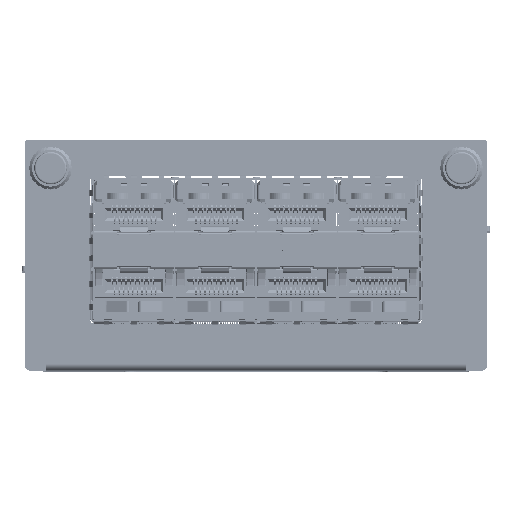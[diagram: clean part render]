
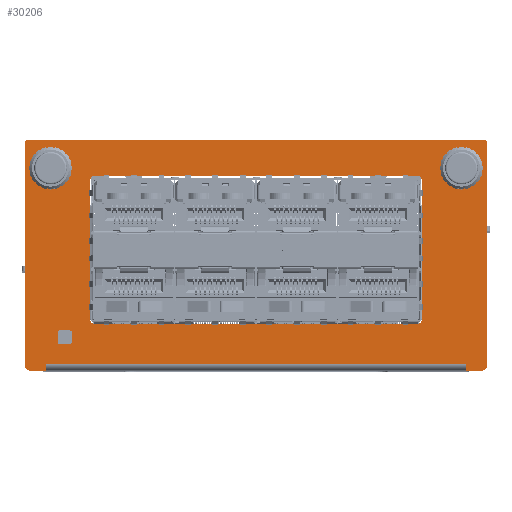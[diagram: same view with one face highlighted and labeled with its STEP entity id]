
A CAD part, top view. The second image highlights one B-rep face of the part: STEP entity #30206.
In plain terms, the highlighted planar face has unit normal (0, 0, -1).
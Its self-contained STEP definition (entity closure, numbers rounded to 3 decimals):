
#24554=DIRECTION('',(1.,0.,0.));
#24555=VECTOR('',#24554,73.6);
#24556=CARTESIAN_POINT('',(-116.3,2.6,384.8));
#24557=LINE('',#24556,#24555);
#25815=CARTESIAN_POINT('',(-40.,2.4,384.8));
#25816=DIRECTION('',(0.,0.,1.));
#25817=DIRECTION('',(0.,-1.,0.));
#25818=AXIS2_PLACEMENT_3D('',#25815,#25816,#25817);
#25823=CARTESIAN_POINT('',(-39.5,41.4,384.8));
#25824=DIRECTION('',(0.,0.,1.));
#25825=DIRECTION('',(1.,0.,0.));
#25826=AXIS2_PLACEMENT_3D('',#25823,#25824,#25825);
#25831=CARTESIAN_POINT('',(-119.5,41.4,384.8));
#25832=DIRECTION('',(0.,0.,1.));
#25833=DIRECTION('',(0.,1.,0.));
#25834=AXIS2_PLACEMENT_3D('',#25831,#25832,#25833);
#25839=CARTESIAN_POINT('',(-119.,2.4,384.8));
#25840=DIRECTION('',(0.,0.,1.));
#25841=DIRECTION('',(-1.,0.,0.));
#25842=AXIS2_PLACEMENT_3D('',#25839,#25840,#25841);
#25847=CARTESIAN_POINT('',(-115.5,36.9,384.8));
#25848=DIRECTION('',(0.,0.,-1.));
#25849=DIRECTION('',(1.,0.,0.));
#25850=AXIS2_PLACEMENT_3D('',#25847,#25848,#25849);
#25855=CARTESIAN_POINT('',(-115.5,36.9,384.8));
#25856=DIRECTION('',(0.,0.,-1.));
#25857=DIRECTION('',(-1.,0.,0.));
#25858=AXIS2_PLACEMENT_3D('',#25855,#25856,#25857);
#25863=CARTESIAN_POINT('',(-43.5,36.9,384.8));
#25864=DIRECTION('',(0.,0.,-1.));
#25865=DIRECTION('',(1.,0.,0.));
#25866=AXIS2_PLACEMENT_3D('',#25863,#25864,#25865);
#25871=CARTESIAN_POINT('',(-43.5,36.9,384.8));
#25872=DIRECTION('',(0.,0.,-1.));
#25873=DIRECTION('',(-1.,0.,0.));
#25874=AXIS2_PLACEMENT_3D('',#25871,#25872,#25873);
#25879=DIRECTION('',(0.,-1.,0.));
#25880=VECTOR('',#25879,24.1);
#25881=CARTESIAN_POINT('',(-50.375,34.6,384.8));
#25882=LINE('',#25881,#25880);
#25886=CARTESIAN_POINT('',(-51.28,10.5,384.8));
#25887=DIRECTION('',(0.,0.,-1.));
#25888=DIRECTION('',(1.,0.,0.));
#25889=AXIS2_PLACEMENT_3D('',#25886,#25887,#25888);
#25894=CARTESIAN_POINT('',(-107.72,10.5,384.8));
#25895=DIRECTION('',(0.,0.,-1.));
#25896=DIRECTION('',(0.105,-0.994,0.));
#25897=AXIS2_PLACEMENT_3D('',#25894,#25895,#25896);
#25902=CARTESIAN_POINT('',(-107.625,34.6,384.8));
#25903=DIRECTION('',(0.,0.,-1.));
#25904=DIRECTION('',(-1.,0.,0.));
#25905=AXIS2_PLACEMENT_3D('',#25902,#25903,#25904);
#25910=CARTESIAN_POINT('',(-51.375,34.6,384.8));
#25911=DIRECTION('',(0.,0.,-1.));
#25912=DIRECTION('',(0.,1.,0.));
#25913=AXIS2_PLACEMENT_3D('',#25910,#25911,#25912);
#25925=DIRECTION('',(0.,-1.,0.));
#25926=VECTOR('',#25925,39.);
#25927=CARTESIAN_POINT('',(-39.,41.4,384.8));
#25928=LINE('',#25927,#25926);
#25953=DIRECTION('',(1.,0.,0.));
#25954=VECTOR('',#25953,80.);
#25955=CARTESIAN_POINT('',(-119.5,41.9,384.8));
#25956=LINE('',#25955,#25954);
#25974=DIRECTION('',(0.,1.,0.));
#25975=VECTOR('',#25974,39.);
#25976=CARTESIAN_POINT('',(-120.,2.4,384.8));
#25977=LINE('',#25976,#25975);
#26009=DIRECTION('',(-1.,0.,0.));
#26010=VECTOR('',#26009,2.7);
#26011=CARTESIAN_POINT('',(-116.3,1.4,384.8));
#26012=LINE('',#26011,#26010);
#26037=DIRECTION('',(0.,1.,0.));
#26038=VECTOR('',#26037,1.2);
#26039=CARTESIAN_POINT('',(-116.3,1.4,384.8));
#26040=LINE('',#26039,#26038);
#26051=DIRECTION('',(0.,-1.,0.));
#26052=VECTOR('',#26051,1.2);
#26053=CARTESIAN_POINT('',(-42.7,2.6,384.8));
#26054=LINE('',#26053,#26052);
#26072=DIRECTION('',(1.,0.,0.));
#26073=VECTOR('',#26072,2.7);
#26074=CARTESIAN_POINT('',(-42.7,1.4,384.8));
#26075=LINE('',#26074,#26073);
#26174=DIRECTION('',(1.,0.,0.));
#26175=VECTOR('',#26174,2.03);
#26176=CARTESIAN_POINT('',(-114.015,8.29,384.8));
#26177=LINE('',#26176,#26175);
#26188=DIRECTION('',(0.,1.,0.));
#26189=VECTOR('',#26188,2.03);
#26190=CARTESIAN_POINT('',(-114.015,6.26,384.8));
#26191=LINE('',#26190,#26189);
#26216=DIRECTION('',(-1.,0.,0.));
#26217=VECTOR('',#26216,2.03);
#26218=CARTESIAN_POINT('',(-111.985,6.26,384.8));
#26219=LINE('',#26218,#26217);
#26237=DIRECTION('',(0.,-1.,0.));
#26238=VECTOR('',#26237,2.03);
#26239=CARTESIAN_POINT('',(-111.985,8.29,384.8));
#26240=LINE('',#26239,#26238);
#26279=DIRECTION('',(-1.,0.,0.));
#26280=VECTOR('',#26279,56.25);
#26281=CARTESIAN_POINT('',(-51.375,35.6,384.8));
#26282=LINE('',#26281,#26280);
#26307=DIRECTION('',(0.,-1.,0.));
#26308=VECTOR('',#26307,24.1);
#26309=CARTESIAN_POINT('',(-108.625,34.6,384.8));
#26310=LINE('',#26309,#26308);
#26335=DIRECTION('',(-1.,0.,0.));
#26336=VECTOR('',#26335,56.25);
#26337=CARTESIAN_POINT('',(-51.375,9.6,384.8));
#26338=LINE('',#26337,#26336);
#28252=CARTESIAN_POINT('',(-42.7,2.6,384.8));
#28254=VERTEX_POINT('',#28252);
#28256=CARTESIAN_POINT('',(-116.3,2.6,384.8));
#28258=VERTEX_POINT('',#28256);
#28264=CARTESIAN_POINT('',(-117.5,36.9,384.8));
#28265=VERTEX_POINT('',#28264);
#28266=CARTESIAN_POINT('',(-113.5,36.9,384.8));
#28267=VERTEX_POINT('',#28266);
#28276=CARTESIAN_POINT('',(-45.5,36.9,384.8));
#28277=VERTEX_POINT('',#28276);
#28278=CARTESIAN_POINT('',(-41.5,36.9,384.8));
#28279=VERTEX_POINT('',#28278);
#28737=CARTESIAN_POINT('',(-50.375,34.6,384.8));
#28738=CARTESIAN_POINT('',(-50.375,10.5,384.8));
#28739=VERTEX_POINT('',#28737);
#28740=VERTEX_POINT('',#28738);
#28741=CARTESIAN_POINT('',(-40.,1.4,384.8));
#28742=CARTESIAN_POINT('',(-39.,2.4,384.8));
#28743=VERTEX_POINT('',#28741);
#28744=VERTEX_POINT('',#28742);
#28745=CARTESIAN_POINT('',(-42.7,1.4,384.8));
#28746=VERTEX_POINT('',#28745);
#28747=CARTESIAN_POINT('',(-116.3,1.4,384.8));
#28748=VERTEX_POINT('',#28747);
#28749=CARTESIAN_POINT('',(-119.,1.4,384.8));
#28750=VERTEX_POINT('',#28749);
#28751=CARTESIAN_POINT('',(-120.,2.4,384.8));
#28752=VERTEX_POINT('',#28751);
#28753=CARTESIAN_POINT('',(-120.,41.4,384.8));
#28754=VERTEX_POINT('',#28753);
#28755=CARTESIAN_POINT('',(-119.5,41.9,384.8));
#28756=VERTEX_POINT('',#28755);
#28757=CARTESIAN_POINT('',(-39.5,41.9,384.8));
#28758=VERTEX_POINT('',#28757);
#28759=CARTESIAN_POINT('',(-39.,41.4,384.8));
#28760=VERTEX_POINT('',#28759);
#28761=CARTESIAN_POINT('',(-114.015,8.29,384.8));
#28762=CARTESIAN_POINT('',(-111.985,8.29,384.8));
#28763=VERTEX_POINT('',#28761);
#28764=VERTEX_POINT('',#28762);
#28765=CARTESIAN_POINT('',(-114.015,6.26,384.8));
#28766=VERTEX_POINT('',#28765);
#28767=CARTESIAN_POINT('',(-111.985,6.26,384.8));
#28768=VERTEX_POINT('',#28767);
#28769=CARTESIAN_POINT('',(-51.375,35.6,384.8));
#28770=VERTEX_POINT('',#28769);
#28771=CARTESIAN_POINT('',(-107.625,35.6,384.8));
#28772=VERTEX_POINT('',#28771);
#28773=CARTESIAN_POINT('',(-108.625,34.6,384.8));
#28774=VERTEX_POINT('',#28773);
#28775=CARTESIAN_POINT('',(-108.625,10.5,384.8));
#28776=VERTEX_POINT('',#28775);
#28777=CARTESIAN_POINT('',(-107.625,9.6,384.8));
#28778=VERTEX_POINT('',#28777);
#28779=CARTESIAN_POINT('',(-51.375,9.6,384.8));
#28780=VERTEX_POINT('',#28779);
#30137=CARTESIAN_POINT('',(-79.5,21.65,384.8));
#30138=DIRECTION('',(0.,0.,1.));
#30139=DIRECTION('',(1.,0.,0.));
#30140=AXIS2_PLACEMENT_3D('',#30137,#30138,#30139);
#30141=PLANE('',#30140);
#30142=ORIENTED_EDGE('',*,*,#30127,.T.);
#30144=ORIENTED_EDGE('',*,*,#30143,.F.);
#30146=ORIENTED_EDGE('',*,*,#30145,.T.);
#30148=ORIENTED_EDGE('',*,*,#30147,.F.);
#30150=ORIENTED_EDGE('',*,*,#30149,.T.);
#30152=ORIENTED_EDGE('',*,*,#30151,.F.);
#30154=ORIENTED_EDGE('',*,*,#30153,.T.);
#30156=ORIENTED_EDGE('',*,*,#30155,.F.);
#30158=ORIENTED_EDGE('',*,*,#30157,.T.);
#30159=ORIENTED_EDGE('',*,*,#29100,.T.);
#30161=ORIENTED_EDGE('',*,*,#30160,.T.);
#30163=ORIENTED_EDGE('',*,*,#30162,.T.);
#30164=EDGE_LOOP('',(#30142,#30144,#30146,#30148,#30150,#30152,#30154,#30156,
#30158,#30159,#30161,#30163));
#30165=FACE_OUTER_BOUND('',#30164,.F.);
#30167=ORIENTED_EDGE('',*,*,#30166,.T.);
#30169=ORIENTED_EDGE('',*,*,#30168,.T.);
#30170=EDGE_LOOP('',(#30167,#30169));
#30171=FACE_BOUND('',#30170,.F.);
#30173=ORIENTED_EDGE('',*,*,#30172,.T.);
#30175=ORIENTED_EDGE('',*,*,#30174,.T.);
#30176=EDGE_LOOP('',(#30173,#30175));
#30177=FACE_BOUND('',#30176,.F.);
#30179=ORIENTED_EDGE('',*,*,#30178,.T.);
#30181=ORIENTED_EDGE('',*,*,#30180,.T.);
#30183=ORIENTED_EDGE('',*,*,#30182,.T.);
#30185=ORIENTED_EDGE('',*,*,#30184,.T.);
#30186=EDGE_LOOP('',(#30179,#30181,#30183,#30185));
#30187=FACE_BOUND('',#30186,.F.);
#30189=ORIENTED_EDGE('',*,*,#30188,.T.);
#30191=ORIENTED_EDGE('',*,*,#30190,.T.);
#30193=ORIENTED_EDGE('',*,*,#30192,.T.);
#30195=ORIENTED_EDGE('',*,*,#30194,.T.);
#30197=ORIENTED_EDGE('',*,*,#30196,.F.);
#30199=ORIENTED_EDGE('',*,*,#30198,.T.);
#30201=ORIENTED_EDGE('',*,*,#30200,.F.);
#30203=ORIENTED_EDGE('',*,*,#30202,.T.);
#30204=EDGE_LOOP('',(#30189,#30191,#30193,#30195,#30197,#30199,#30201,#30203));
#30205=FACE_BOUND('',#30204,.F.);
#25819=CIRCLE('',#25818,1.);
#25827=CIRCLE('',#25826,0.5);
#25835=CIRCLE('',#25834,0.5);
#25843=CIRCLE('',#25842,1.);
#25851=CIRCLE('',#25850,2.);
#25859=CIRCLE('',#25858,2.);
#25867=CIRCLE('',#25866,2.);
#25875=CIRCLE('',#25874,2.);
#25890=CIRCLE('',#25889,0.905);
#25898=CIRCLE('',#25897,0.905);
#25906=CIRCLE('',#25905,1.);
#25914=CIRCLE('',#25913,1.);
#29100=EDGE_CURVE('',#28258,#28254,#24557,.T.);
#30127=EDGE_CURVE('',#28743,#28744,#25819,.T.);
#30143=EDGE_CURVE('',#28760,#28744,#25928,.T.);
#30145=EDGE_CURVE('',#28760,#28758,#25827,.T.);
#30147=EDGE_CURVE('',#28756,#28758,#25956,.T.);
#30149=EDGE_CURVE('',#28756,#28754,#25835,.T.);
#30151=EDGE_CURVE('',#28752,#28754,#25977,.T.);
#30153=EDGE_CURVE('',#28752,#28750,#25843,.T.);
#30155=EDGE_CURVE('',#28748,#28750,#26012,.T.);
#30157=EDGE_CURVE('',#28748,#28258,#26040,.T.);
#30160=EDGE_CURVE('',#28254,#28746,#26054,.T.);
#30162=EDGE_CURVE('',#28746,#28743,#26075,.T.);
#30166=EDGE_CURVE('',#28267,#28265,#25851,.T.);
#30168=EDGE_CURVE('',#28265,#28267,#25859,.T.);
#30172=EDGE_CURVE('',#28279,#28277,#25867,.T.);
#30174=EDGE_CURVE('',#28277,#28279,#25875,.T.);
#30178=EDGE_CURVE('',#28763,#28764,#26177,.T.);
#30180=EDGE_CURVE('',#28764,#28768,#26240,.T.);
#30182=EDGE_CURVE('',#28768,#28766,#26219,.T.);
#30184=EDGE_CURVE('',#28766,#28763,#26191,.T.);
#30188=EDGE_CURVE('',#28739,#28740,#25882,.T.);
#30190=EDGE_CURVE('',#28740,#28780,#25890,.T.);
#30192=EDGE_CURVE('',#28780,#28778,#26338,.T.);
#30194=EDGE_CURVE('',#28778,#28776,#25898,.T.);
#30196=EDGE_CURVE('',#28774,#28776,#26310,.T.);
#30198=EDGE_CURVE('',#28774,#28772,#25906,.T.);
#30200=EDGE_CURVE('',#28770,#28772,#26282,.T.);
#30202=EDGE_CURVE('',#28770,#28739,#25914,.T.);
#30206=ADVANCED_FACE('',(#30165,#30171,#30177,#30187,#30205),#30141,.F.);
